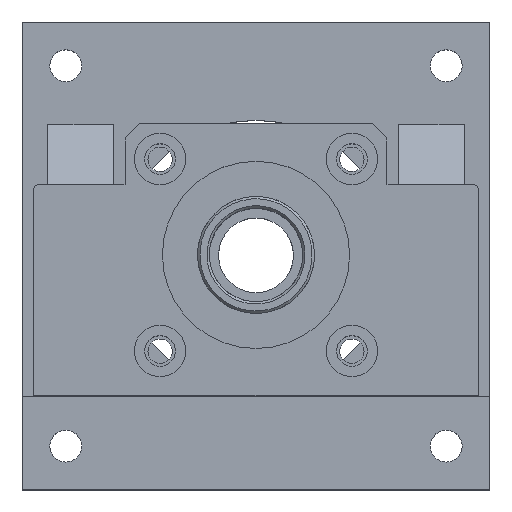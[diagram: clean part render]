
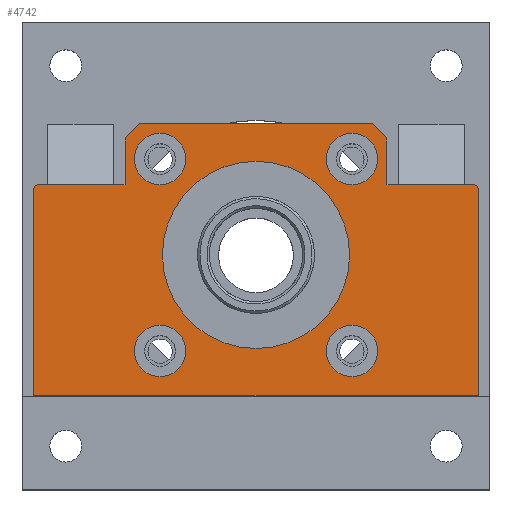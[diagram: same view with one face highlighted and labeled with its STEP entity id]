
A CAD part, top view. The second image highlights one B-rep face of the part: STEP entity #4742.
In plain terms, the highlighted planar face has unit normal (0, 0, 1).
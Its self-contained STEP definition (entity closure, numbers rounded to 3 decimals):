
#1987=DIRECTION('',(-1.,0.,0.));
#1988=VECTOR('',#1987,95.);
#1989=CARTESIAN_POINT('',(47.5,-30.,252.));
#1990=LINE('',#1989,#1988);
#2627=CARTESIAN_POINT('',(20.506,20.506,252.));
#2628=DIRECTION('',(0.,0.,-1.));
#2629=DIRECTION('',(1.,0.,0.));
#2630=AXIS2_PLACEMENT_3D('',#2627,#2628,#2629);
#2632=CARTESIAN_POINT('',(20.506,20.506,252.));
#2633=DIRECTION('',(0.,0.,-1.));
#2634=DIRECTION('',(-1.,0.,0.));
#2635=AXIS2_PLACEMENT_3D('',#2632,#2633,#2634);
#2637=CARTESIAN_POINT('',(-20.506,-20.506,252.));
#2638=DIRECTION('',(0.,0.,-1.));
#2639=DIRECTION('',(1.,0.,0.));
#2640=AXIS2_PLACEMENT_3D('',#2637,#2638,#2639);
#2642=CARTESIAN_POINT('',(-20.506,-20.506,252.));
#2643=DIRECTION('',(0.,0.,-1.));
#2644=DIRECTION('',(-1.,0.,0.));
#2645=AXIS2_PLACEMENT_3D('',#2642,#2643,#2644);
#2647=CARTESIAN_POINT('',(-20.506,20.506,252.));
#2648=DIRECTION('',(0.,0.,-1.));
#2649=DIRECTION('',(1.,0.,0.));
#2650=AXIS2_PLACEMENT_3D('',#2647,#2648,#2649);
#2652=CARTESIAN_POINT('',(-20.506,20.506,252.));
#2653=DIRECTION('',(0.,0.,-1.));
#2654=DIRECTION('',(-1.,0.,0.));
#2655=AXIS2_PLACEMENT_3D('',#2652,#2653,#2654);
#2657=CARTESIAN_POINT('',(20.506,-20.506,252.));
#2658=DIRECTION('',(0.,0.,-1.));
#2659=DIRECTION('',(1.,0.,0.));
#2660=AXIS2_PLACEMENT_3D('',#2657,#2658,#2659);
#2662=CARTESIAN_POINT('',(20.506,-20.506,252.));
#2663=DIRECTION('',(0.,0.,-1.));
#2664=DIRECTION('',(-1.,0.,0.));
#2665=AXIS2_PLACEMENT_3D('',#2662,#2663,#2664);
#2667=CARTESIAN_POINT('',(0.,0.,252.));
#2668=DIRECTION('',(0.,0.,-1.));
#2669=DIRECTION('',(1.,0.,0.));
#2670=AXIS2_PLACEMENT_3D('',#2667,#2668,#2669);
#2672=CARTESIAN_POINT('',(0.,0.,252.));
#2673=DIRECTION('',(0.,0.,-1.));
#2674=DIRECTION('',(-1.,0.,0.));
#2675=AXIS2_PLACEMENT_3D('',#2672,#2673,#2674);
#2677=DIRECTION('',(-0.707,-0.707,0.));
#2678=VECTOR('',#2677,4.243);
#2679=CARTESIAN_POINT('',(-25.,28.,252.));
#2680=LINE('',#2679,#2678);
#2681=DIRECTION('',(-0.707,0.707,0.));
#2682=VECTOR('',#2681,4.243);
#2683=CARTESIAN_POINT('',(28.,25.,252.));
#2684=LINE('',#2683,#2682);
#2685=CARTESIAN_POINT('',(46.5,14.,252.));
#2686=DIRECTION('',(0.,0.,1.));
#2687=DIRECTION('',(1.,0.,0.));
#2688=AXIS2_PLACEMENT_3D('',#2685,#2686,#2687);
#2690=CARTESIAN_POINT('',(-46.5,14.,252.));
#2691=DIRECTION('',(0.,0.,1.));
#2692=DIRECTION('',(0.,1.,0.));
#2693=AXIS2_PLACEMENT_3D('',#2690,#2691,#2692);
#2859=DIRECTION('',(1.,0.,0.));
#2860=VECTOR('',#2859,18.5);
#2861=CARTESIAN_POINT('',(-46.5,15.,252.));
#2862=LINE('',#2861,#2860);
#2909=DIRECTION('',(0.,1.,0.));
#2910=VECTOR('',#2909,10.);
#2911=CARTESIAN_POINT('',(-28.,15.,252.));
#2912=LINE('',#2911,#2910);
#2921=DIRECTION('',(1.,0.,0.));
#2922=VECTOR('',#2921,50.);
#2923=CARTESIAN_POINT('',(-25.,28.,252.));
#2924=LINE('',#2923,#2922);
#2933=DIRECTION('',(0.,-1.,0.));
#2934=VECTOR('',#2933,10.);
#2935=CARTESIAN_POINT('',(28.,25.,252.));
#2936=LINE('',#2935,#2934);
#2961=DIRECTION('',(1.,0.,0.));
#2962=VECTOR('',#2961,18.5);
#2963=CARTESIAN_POINT('',(28.,15.,252.));
#2964=LINE('',#2963,#2962);
#3274=DIRECTION('',(0.,-1.,0.));
#3275=VECTOR('',#3274,44.);
#3276=CARTESIAN_POINT('',(47.5,14.,252.));
#3277=LINE('',#3276,#3275);
#3315=DIRECTION('',(0.,1.,0.));
#3316=VECTOR('',#3315,44.);
#3317=CARTESIAN_POINT('',(-47.5,-30.,252.));
#3318=LINE('',#3317,#3316);
#3453=CARTESIAN_POINT('',(47.5,-30.,252.));
#3454=VERTEX_POINT('',#3453);
#3455=CARTESIAN_POINT('',(-47.5,-30.,252.));
#3456=VERTEX_POINT('',#3455);
#3503=CARTESIAN_POINT('',(-46.5,15.,252.));
#3504=VERTEX_POINT('',#3503);
#3505=CARTESIAN_POINT('',(-28.,15.,252.));
#3506=VERTEX_POINT('',#3505);
#3507=CARTESIAN_POINT('',(-47.5,14.,252.));
#3508=VERTEX_POINT('',#3507);
#3509=CARTESIAN_POINT('',(47.5,14.,252.));
#3510=VERTEX_POINT('',#3509);
#3511=CARTESIAN_POINT('',(46.5,15.,252.));
#3512=VERTEX_POINT('',#3511);
#3513=CARTESIAN_POINT('',(28.,15.,252.));
#3514=VERTEX_POINT('',#3513);
#3515=CARTESIAN_POINT('',(28.,25.,252.));
#3516=VERTEX_POINT('',#3515);
#3517=CARTESIAN_POINT('',(25.,28.,252.));
#3518=VERTEX_POINT('',#3517);
#3519=CARTESIAN_POINT('',(-25.,28.,252.));
#3520=VERTEX_POINT('',#3519);
#3521=CARTESIAN_POINT('',(-28.,25.,252.));
#3522=VERTEX_POINT('',#3521);
#3553=CARTESIAN_POINT('',(-20.,0.,252.));
#3554=CARTESIAN_POINT('',(20.,0.,252.));
#3555=VERTEX_POINT('',#3553);
#3556=VERTEX_POINT('',#3554);
#3557=CARTESIAN_POINT('',(26.006,20.506,252.));
#3559=VERTEX_POINT('',#3557);
#3561=CARTESIAN_POINT('',(15.006,20.506,252.));
#3563=VERTEX_POINT('',#3561);
#3573=CARTESIAN_POINT('',(15.006,-20.506,252.));
#3575=VERTEX_POINT('',#3573);
#3577=CARTESIAN_POINT('',(26.006,-20.506,252.));
#3579=VERTEX_POINT('',#3577);
#3581=CARTESIAN_POINT('',(-26.006,20.506,252.));
#3583=VERTEX_POINT('',#3581);
#3585=CARTESIAN_POINT('',(-15.006,20.506,252.));
#3587=VERTEX_POINT('',#3585);
#3589=CARTESIAN_POINT('',(-26.006,-20.506,252.));
#3591=VERTEX_POINT('',#3589);
#3593=CARTESIAN_POINT('',(-15.006,-20.506,252.));
#3595=VERTEX_POINT('',#3593);
#4684=CARTESIAN_POINT('',(0.,0.,252.));
#4685=DIRECTION('',(0.,0.,1.));
#4686=DIRECTION('',(-1.,0.,0.));
#4687=AXIS2_PLACEMENT_3D('',#4684,#4685,#4686);
#4688=PLANE('',#4687);
#4690=ORIENTED_EDGE('',*,*,#4689,.T.);
#4692=ORIENTED_EDGE('',*,*,#4691,.T.);
#4694=ORIENTED_EDGE('',*,*,#4693,.F.);
#4696=ORIENTED_EDGE('',*,*,#4695,.T.);
#4698=ORIENTED_EDGE('',*,*,#4697,.F.);
#4700=ORIENTED_EDGE('',*,*,#4699,.T.);
#4702=ORIENTED_EDGE('',*,*,#4701,.T.);
#4704=ORIENTED_EDGE('',*,*,#4703,.F.);
#4706=ORIENTED_EDGE('',*,*,#4705,.T.);
#4707=ORIENTED_EDGE('',*,*,#3886,.T.);
#4709=ORIENTED_EDGE('',*,*,#4708,.T.);
#4711=ORIENTED_EDGE('',*,*,#4710,.F.);
#4712=EDGE_LOOP('',(#4690,#4692,#4694,#4696,#4698,#4700,#4702,#4704,#4706,#4707,
#4709,#4711));
#4713=FACE_OUTER_BOUND('',#4712,.F.);
#4715=ORIENTED_EDGE('',*,*,#4714,.F.);
#4717=ORIENTED_EDGE('',*,*,#4716,.F.);
#4718=EDGE_LOOP('',(#4715,#4717));
#4719=FACE_BOUND('',#4718,.F.);
#4721=ORIENTED_EDGE('',*,*,#4720,.F.);
#4723=ORIENTED_EDGE('',*,*,#4722,.F.);
#4724=EDGE_LOOP('',(#4721,#4723));
#4725=FACE_BOUND('',#4724,.F.);
#4727=ORIENTED_EDGE('',*,*,#4726,.F.);
#4729=ORIENTED_EDGE('',*,*,#4728,.F.);
#4730=EDGE_LOOP('',(#4727,#4729));
#4731=FACE_BOUND('',#4730,.F.);
#4732=ORIENTED_EDGE('',*,*,#4678,.F.);
#4733=ORIENTED_EDGE('',*,*,#4664,.F.);
#4734=EDGE_LOOP('',(#4732,#4733));
#4735=FACE_BOUND('',#4734,.F.);
#4737=ORIENTED_EDGE('',*,*,#4736,.F.);
#4739=ORIENTED_EDGE('',*,*,#4738,.F.);
#4740=EDGE_LOOP('',(#4737,#4739));
#4741=FACE_BOUND('',#4740,.F.);
#2631=CIRCLE('',#2630,5.5);
#2636=CIRCLE('',#2635,5.5);
#2641=CIRCLE('',#2640,5.5);
#2646=CIRCLE('',#2645,5.5);
#2651=CIRCLE('',#2650,5.5);
#2656=CIRCLE('',#2655,5.5);
#2661=CIRCLE('',#2660,5.5);
#2666=CIRCLE('',#2665,5.5);
#2671=CIRCLE('',#2670,20.);
#2676=CIRCLE('',#2675,20.);
#2689=CIRCLE('',#2688,1.);
#2694=CIRCLE('',#2693,1.);
#3886=EDGE_CURVE('',#3454,#3456,#1990,.T.);
#4664=EDGE_CURVE('',#3555,#3556,#2676,.T.);
#4678=EDGE_CURVE('',#3556,#3555,#2671,.T.);
#4689=EDGE_CURVE('',#3504,#3506,#2862,.T.);
#4691=EDGE_CURVE('',#3506,#3522,#2912,.T.);
#4693=EDGE_CURVE('',#3520,#3522,#2680,.T.);
#4695=EDGE_CURVE('',#3520,#3518,#2924,.T.);
#4697=EDGE_CURVE('',#3516,#3518,#2684,.T.);
#4699=EDGE_CURVE('',#3516,#3514,#2936,.T.);
#4701=EDGE_CURVE('',#3514,#3512,#2964,.T.);
#4703=EDGE_CURVE('',#3510,#3512,#2689,.T.);
#4705=EDGE_CURVE('',#3510,#3454,#3277,.T.);
#4708=EDGE_CURVE('',#3456,#3508,#3318,.T.);
#4710=EDGE_CURVE('',#3504,#3508,#2694,.T.);
#4714=EDGE_CURVE('',#3595,#3591,#2641,.T.);
#4716=EDGE_CURVE('',#3591,#3595,#2646,.T.);
#4720=EDGE_CURVE('',#3587,#3583,#2651,.T.);
#4722=EDGE_CURVE('',#3583,#3587,#2656,.T.);
#4726=EDGE_CURVE('',#3579,#3575,#2661,.T.);
#4728=EDGE_CURVE('',#3575,#3579,#2666,.T.);
#4736=EDGE_CURVE('',#3559,#3563,#2631,.T.);
#4738=EDGE_CURVE('',#3563,#3559,#2636,.T.);
#4742=ADVANCED_FACE('',(#4713,#4719,#4725,#4731,#4735,#4741),#4688,.T.);
